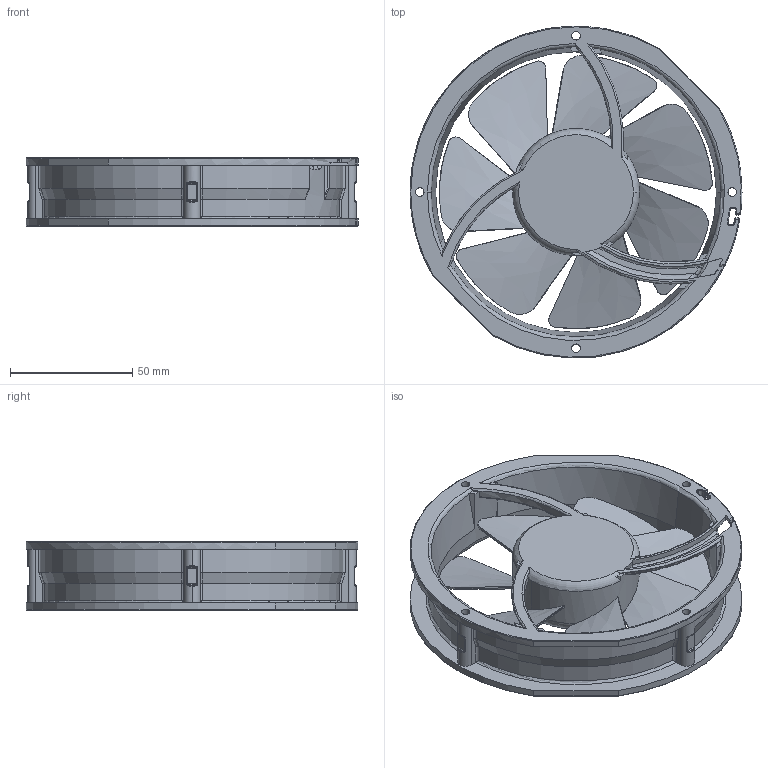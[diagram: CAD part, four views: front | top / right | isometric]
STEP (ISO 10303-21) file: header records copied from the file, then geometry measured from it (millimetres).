
FILE_DESCRIPTION (( 'STEP AP203' ), '1' );
FILE_NAME ('13628RF.STEP', '2017-07-25T10:00:17', ( '' ), ( '' ), 'SwSTEP 2.0', 'SolidWorks 2017', '' );
FILE_SCHEMA (( 'CONFIG_CONTROL_DESIGN' ));
Length unit declared in the file: millimetre
Products named in the file (1): 13628RF
Bounding box: 136 x 135.98 x 28 mm (x, y, z)
Volume: 112610.5 mm3; surface area: 59487.6 mm2
Topology: 1 solids, 1 shells, 390 faces, 1093 edges, 701 vertices
Faces by surface type: cylinder 132, bspline 126, plane 58, torus 53, cone 21
Entity records: 17439 total; most frequent: CARTESIAN_POINT 8623, ORIENTED_EDGE 2174, DIRECTION 1434, EDGE_CURVE 1087, VERTEX_POINT 701, AXIS2_PLACEMENT_3D 607, B_SPLINE_CURVE_WITH_KNOTS 442, EDGE_LOOP 406
